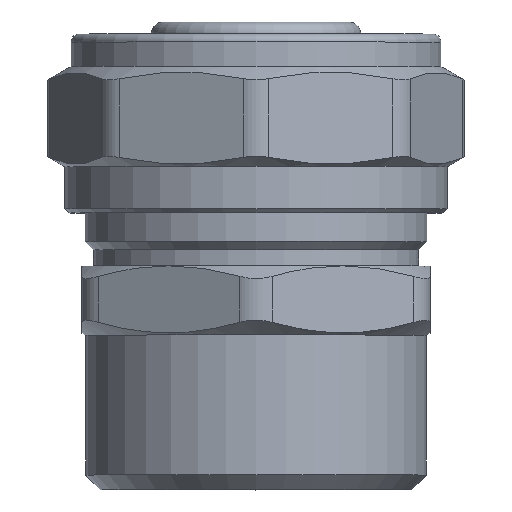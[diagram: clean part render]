
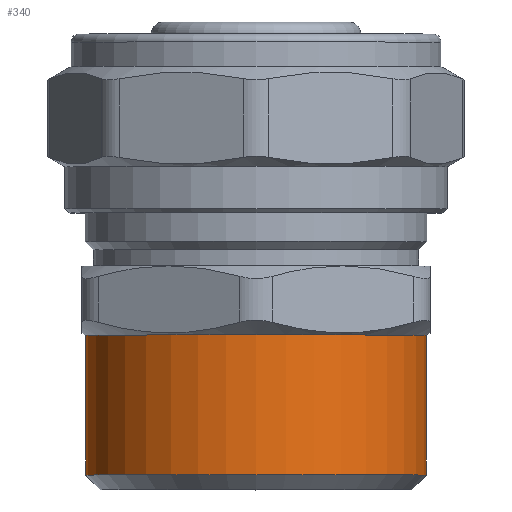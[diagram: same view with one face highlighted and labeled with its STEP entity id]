
A CAD part, top view. The second image highlights one B-rep face of the part: STEP entity #340.
In plain terms, the highlighted cylindrical face has radius 20.955 mm (diameter 41.91 mm), a full revolution.
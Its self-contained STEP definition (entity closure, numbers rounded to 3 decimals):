
#340=ADVANCED_FACE('',(#2349,#2351),#2353,.T.);
#2349=FACE_OUTER_BOUND('',#2350,.T.);
#2350=EDGE_LOOP('',(#4601));
#2351=FACE_OUTER_BOUND('',#2352,.T.);
#2352=EDGE_LOOP('',(#4602));
#2353=CYLINDRICAL_SURFACE('',#2354,20.955);
#2354=AXIS2_PLACEMENT_3D('',#2355,#2356,#2357);
#2355=CARTESIAN_POINT('',(0.,0.,0.));
#2356=DIRECTION('',(0.,1.,0.));
#2357=DIRECTION('',(-1.,0.,0.));
#4601=ORIENTED_EDGE('',*,*,#5491,.T.);
#4602=ORIENTED_EDGE('',*,*,#5502,.T.);
#5491=EDGE_CURVE('',#6843,#6843,#6844,.F.);
#5502=EDGE_CURVE('',#6865,#6865,#6866,.T.);
#6843=VERTEX_POINT('',#12448);
#6844=CIRCLE('',#12449,20.955);
#6865=VERTEX_POINT('',#12495);
#6866=CIRCLE('',#12496,20.955);
#12448=CARTESIAN_POINT('',(-20.955,19.,0.));
#12449=AXIS2_PLACEMENT_3D('',#12450,#12451,#12452);
#12450=CARTESIAN_POINT('',(0.,19.,0.));
#12451=DIRECTION('',(0.,1.,0.));
#12452=DIRECTION('',(-1.,0.,0.));
#12495=CARTESIAN_POINT('',(-20.955,1.8,0.));
#12496=AXIS2_PLACEMENT_3D('',#12497,#12498,#12499);
#12497=CARTESIAN_POINT('',(0.,1.8,0.));
#12498=DIRECTION('',(0.,1.,0.));
#12499=DIRECTION('',(-1.,0.,0.));
